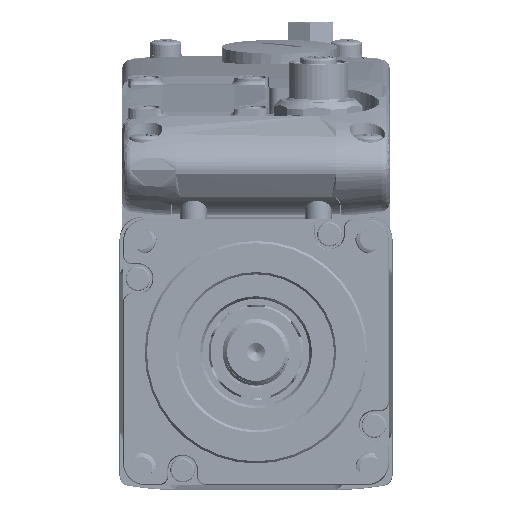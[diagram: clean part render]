
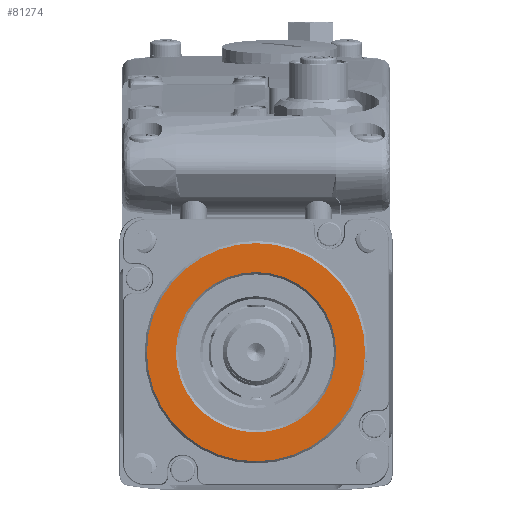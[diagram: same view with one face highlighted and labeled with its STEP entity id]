
A CAD part, top view. The second image highlights one B-rep face of the part: STEP entity #81274.
In plain terms, the highlighted planar face has unit normal (0, 0, 1) as drawn and (0, -1, 0) by its records, which use the part's own axes.
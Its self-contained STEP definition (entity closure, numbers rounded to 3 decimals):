
#3145=CIRCLE('',#85625,24.5);
#3146=CIRCLE('',#85626,18.);
#8563=ORIENTED_EDGE('',*,*,#26964,.F.);
#8564=ORIENTED_EDGE('',*,*,#26965,.T.);
#26964=EDGE_CURVE('',#36155,#36155,#3145,.T.);
#26965=EDGE_CURVE('',#36156,#36156,#3146,.T.);
#36155=VERTEX_POINT('',#111907);
#36156=VERTEX_POINT('',#111909);
#50377=EDGE_LOOP('',(#8563));
#50378=EDGE_LOOP('',(#8564));
#55403=FACE_BOUND('',#50377,.T.);
#55404=FACE_BOUND('',#50378,.T.);
#60409=PLANE('',#85624);
#81274=ADVANCED_FACE('',(#55403,#55404),#60409,.F.);
#85624=AXIS2_PLACEMENT_3D('',#111905,#92978,#92979);
#85625=AXIS2_PLACEMENT_3D('',#111906,#92980,#92981);
#85626=AXIS2_PLACEMENT_3D('',#111908,#92982,#92983);
#92978=DIRECTION('',(0.,1.,0.));
#92979=DIRECTION('',(0.,0.,1.));
#92980=DIRECTION('',(0.,1.,0.));
#92981=DIRECTION('',(0.,0.,1.));
#92982=DIRECTION('',(0.,1.,0.));
#92983=DIRECTION('',(0.,0.,1.));
#111905=CARTESIAN_POINT('',(0.,6.39,25.));
#111906=CARTESIAN_POINT('',(0.,6.39,0.));
#111907=CARTESIAN_POINT('',(0.,6.39,24.5));
#111908=CARTESIAN_POINT('',(0.,6.39,0.));
#111909=CARTESIAN_POINT('',(0.,6.39,18.));
